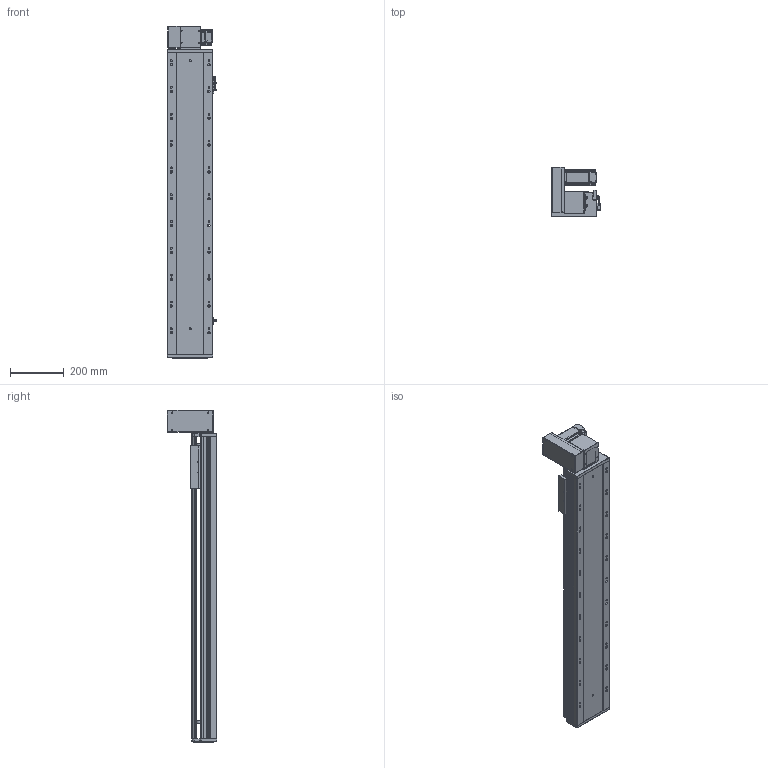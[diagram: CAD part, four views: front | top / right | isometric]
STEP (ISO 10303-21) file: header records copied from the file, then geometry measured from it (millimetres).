
FILE_DESCRIPTION (( 'STEP AP203' ), '1' );
FILE_NAME ('RY170-T-300-UL-P400W.SLDASM_850.step', '2021-03-02T02:12:38', ( '盈信电脑' ), ( '东莞市道滘镇水果街19号' ), 'SwSTEP 2.0', 'SolidWorks 2012', '' );
FILE_SCHEMA (( 'CONFIG_CONTROL_DESIGN' ));
Length unit declared in the file: millimetre
Products named in the file (18): 15; RY170-T-300-UL-P400W.SLDASM_850; RY170-T蹟翐M4; RY170肮祭謫萇儂欶; RY170同步轮电机安装板(400W); RY120-T主同步轮轴承压盖; RY170-T肮祭湍揤踡輸1; 滅袉蝶18-10; RY170-T肮祭謫裔啣; RY170-T肮祭湍揤踡輸2; RY170外置感应片(200共用）; RY170肮祭謫ヶ裔啣; RY170翋肮祭謫釱; 覜茼ん672; RY170綴裔啣; RY170肮祭湍臏賑輸; RY170-T-300肮祭謫倰第裔啣-DL_850; RY170-T-300肮祭謫倰第菁釱-DL_850
Assembly tree (20 placements, depth 2):
  RY170-T-300-UL-P400W.SLDASM_850
    RY170-T-300肮祭謫倰第菁釱-DL_850
    RY170肮祭湍臏賑輸
    RY170-T-300肮祭謫倰第裔啣-DL_850
    RY170綴裔啣
    覜茼ん672  x3
    RY170外置感应片(200共用）
    RY170肮祭謫ヶ裔啣
    RY170翋肮祭謫釱
    RY170-T肮祭湍揤踡輸1
    RY170-T肮祭湍揤踡輸2
    RY170-T肮祭謫裔啣
    滅袉蝶18-10  x2
    RY120-T主同步轮轴承压盖
    RY170肮祭謫萇儂欶
    RY170同步轮电机安装板(400W)
    RY170-T蹟翐M4
    15
Bounding box: 183.7 x 184 x 1238 mm (x, y, z)
Volume: 6231496.6 mm3; surface area: 2104864.9 mm2
Topology: 20 solids, 20 shells, 2653 faces, 7498 edges, 4817 vertices
Faces by surface type: cylinder 1242, plane 1153, cone 228, bspline 30
Entity records: 86352 total; most frequent: CARTESIAN_POINT 20118, ORIENTED_EDGE 13656, DIRECTION 13182, EDGE_CURVE 6828, AXIS2_PLACEMENT_3D 4643, VERTEX_POINT 4485, VECTOR 3896, LINE 3896
